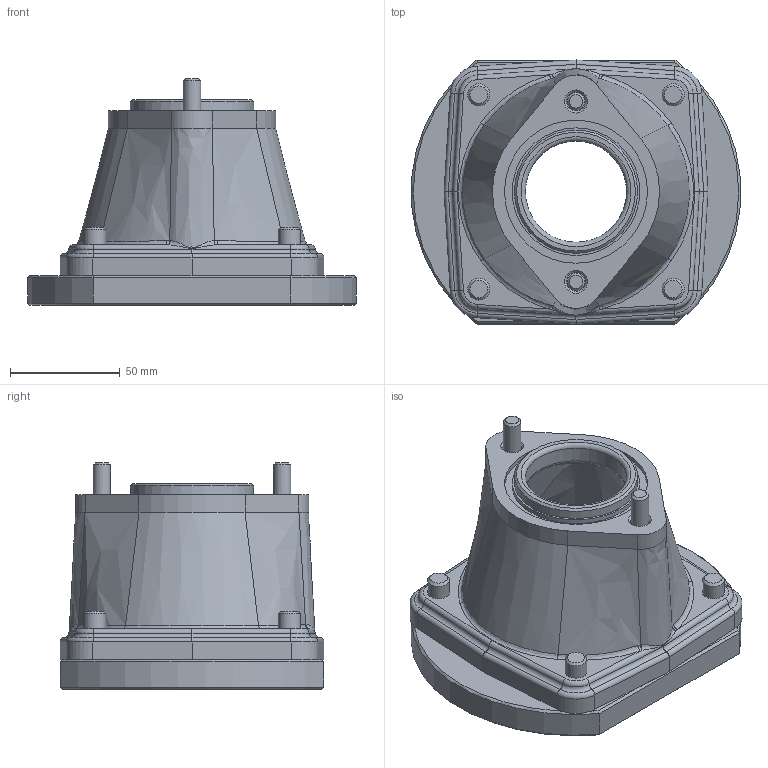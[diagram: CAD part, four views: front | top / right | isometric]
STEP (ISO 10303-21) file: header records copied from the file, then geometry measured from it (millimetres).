
FILE_DESCRIPTION(/* description */ (''),/* implementation_level */ '2;1');
FILE_NAME(/* name */ '3100000100_Semplifica_1.stp',/* time_stamp */ '2023-03-23T11:18:56+01:00',/* author */ ('marcop'),/* organization */ (''),/* preprocessor_version */ 'ST-DEVELOPER v19.2',/* originating_system */ 'Autodesk Inventor 2023',/* authorisation */ '');
FILE_SCHEMA (('AUTOMOTIVE_DESIGN { 1 0 10303 214 3 1 1 }'));
Length unit declared in the file: inch
Products named in the file (1): 3100000100_Semplifica_1
Bounding box: 149.47 x 120 x 103 mm (x, y, z)
Volume: 359180.8 mm3; surface area: 93687.7 mm2
Topology: 1 solids, 1 shells, 327 faces, 788 edges, 488 vertices
Faces by surface type: plane 145, cylinder 68, cone 64, torus 26, bspline 24
Full cylindrical faces by diameter (mm): 8 x2, 8.376 x2, 8.5 x2, 10 x4, 13 x2, 13.5 x2, 16 x4, 17 x4, 46 x1, 56 x1, 58 x1, 62 x1, 65 x1, 82.5 x1, 92 x1, 100 x2, 107 x1
Entity records: 10708 total; most frequent: CARTESIAN_POINT 2904, ORIENTED_EDGE 1564, DIRECTION 1548, EDGE_CURVE 782, AXIS2_PLACEMENT_3D 618, VERTEX_POINT 488, EDGE_LOOP 364, STYLED_ITEM 328
